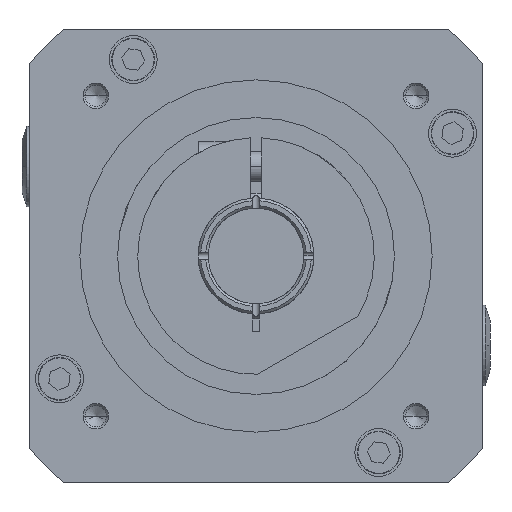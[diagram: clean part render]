
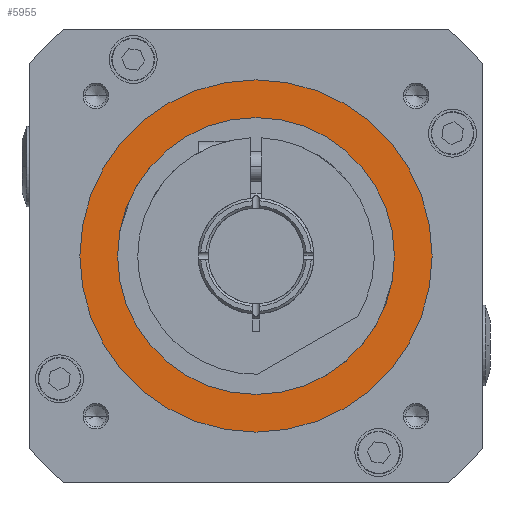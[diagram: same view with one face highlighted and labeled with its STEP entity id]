
A CAD part, left-side view. The second image highlights one B-rep face of the part: STEP entity #5955.
In plain terms, the highlighted planar face has unit normal (-1, 0, 0).
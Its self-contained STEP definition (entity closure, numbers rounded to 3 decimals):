
#27 = ORIENTED_EDGE ( 'NONE', *, *, #11089, .F. ) ;
#676 = CIRCLE ( 'NONE', #5501, 35. ) ;
#1115 = CIRCLE ( 'NONE', #5246, 27.5 ) ;
#1168 = VERTEX_POINT ( 'NONE', #1988 ) ;
#1713 = AXIS2_PLACEMENT_3D ( 'NONE', #5978, #4164, #4116 ) ;
#1988 = CARTESIAN_POINT ( 'NONE',  ( -48., -27.5, 0. ) ) ;
#2165 = DIRECTION ( 'NONE',  ( 0., -1., 0. ) ) ;
#2224 = CARTESIAN_POINT ( 'NONE',  ( -48., 0., 0. ) ) ;
#2453 = DIRECTION ( 'NONE',  ( -1., 0., 0. ) ) ;
#2621 = DIRECTION ( 'NONE',  ( -1., 0., 0. ) ) ;
#2953 = EDGE_CURVE ( 'NONE', #8417, #8421, #676, .T. ) ;
#3019 = CARTESIAN_POINT ( 'NONE',  ( -48., -35., 0. ) ) ;
#3250 = DIRECTION ( 'NONE',  ( 0., -1., 0. ) ) ;
#3594 = CARTESIAN_POINT ( 'NONE',  ( -48., 27.5, 0. ) ) ;
#4116 = DIRECTION ( 'NONE',  ( 0., -1., 0. ) ) ;
#4164 = DIRECTION ( 'NONE',  ( -1., 0., 0. ) ) ;
#4291 = PLANE ( 'NONE',  #1713 ) ;
#5246 = AXIS2_PLACEMENT_3D ( 'NONE', #6933, #2621, #11957 ) ;
#5292 = ORIENTED_EDGE ( 'NONE', *, *, #7171, .F. ) ;
#5501 = AXIS2_PLACEMENT_3D ( 'NONE', #7237, #6851, #2165 ) ;
#5789 = EDGE_LOOP ( 'NONE', ( #12824, #8352 ) ) ;
#5955 = ADVANCED_FACE ( 'NONE', ( #12915, #8461 ), #4291, .T. ) ;
#5978 = CARTESIAN_POINT ( 'NONE',  ( -48., 0., 35. ) ) ;
#6851 = DIRECTION ( 'NONE',  ( -1., 0., 0. ) ) ;
#6933 = CARTESIAN_POINT ( 'NONE',  ( -48., 0., 0. ) ) ;
#6968 = CIRCLE ( 'NONE', #10288, 35. ) ;
#7171 = EDGE_CURVE ( 'NONE', #9145, #1168, #1115, .T. ) ;
#7237 = CARTESIAN_POINT ( 'NONE',  ( -48., 0., 0. ) ) ;
#8164 = CARTESIAN_POINT ( 'NONE',  ( -48., 35., 0. ) ) ;
#8352 = ORIENTED_EDGE ( 'NONE', *, *, #2953, .T. ) ;
#8417 = VERTEX_POINT ( 'NONE', #8164 ) ;
#8421 = VERTEX_POINT ( 'NONE', #3019 ) ;
#8461 = FACE_BOUND ( 'NONE', #9855, .T. ) ;
#8611 = CARTESIAN_POINT ( 'NONE',  ( -48., 0., 0. ) ) ;
#9145 = VERTEX_POINT ( 'NONE', #3594 ) ;
#9437 = DIRECTION ( 'NONE',  ( -1., 0., 0. ) ) ;
#9644 = DIRECTION ( 'NONE',  ( 0., -1., 0. ) ) ;
#9855 = EDGE_LOOP ( 'NONE', ( #27, #5292 ) ) ;
#10288 = AXIS2_PLACEMENT_3D ( 'NONE', #8611, #2453, #9644 ) ;
#10420 = CIRCLE ( 'NONE', #12920, 27.5 ) ;
#11089 = EDGE_CURVE ( 'NONE', #1168, #9145, #10420, .T. ) ;
#11684 = EDGE_CURVE ( 'NONE', #8421, #8417, #6968, .T. ) ;
#11957 = DIRECTION ( 'NONE',  ( 0., -1., 0. ) ) ;
#12824 = ORIENTED_EDGE ( 'NONE', *, *, #11684, .T. ) ;
#12915 = FACE_OUTER_BOUND ( 'NONE', #5789, .T. ) ;
#12920 = AXIS2_PLACEMENT_3D ( 'NONE', #2224, #9437, #3250 ) ;
